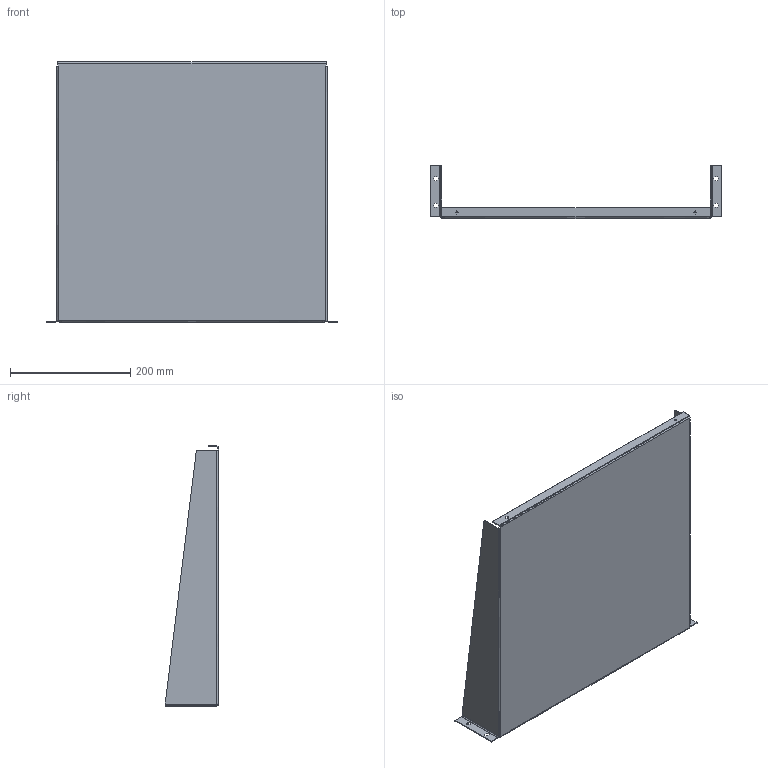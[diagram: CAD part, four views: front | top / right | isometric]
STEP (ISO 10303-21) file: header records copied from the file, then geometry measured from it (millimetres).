
FILE_DESCRIPTION((''),'2;1');
FILE_NAME('D:\scratch\ideas\shelf_17_in.stp','2008-04-29T09:33:50',( 'User'),('SDRC'),'I-DEAS Master Series 9','UNIX','Yes');
FILE_SCHEMA(('AUTOMOTIVE_DESIGN { 1 0 10303 214 0 1 1 1 }'));
Length unit declared in the file: inch
Products named in the file (1): 87566879
Bounding box: 483.01 x 88.14 x 431.8 mm (x, y, z)
Volume: 365800.7 mm3; surface area: 526909.6 mm2
Topology: 1 solids, 1 shells, 94 faces, 220 edges, 128 vertices
Faces by surface type: bspline 94
Entity records: 2521 total; most frequent: CARTESIAN_POINT 1141, ORIENTED_EDGE 440, EDGE_CURVE 220, VERTEX_POINT 128, QUASI_UNIFORM_CURVE 122, EDGE_LOOP 106, FACE_OUTER_BOUND 94, ADVANCED_FACE 94
